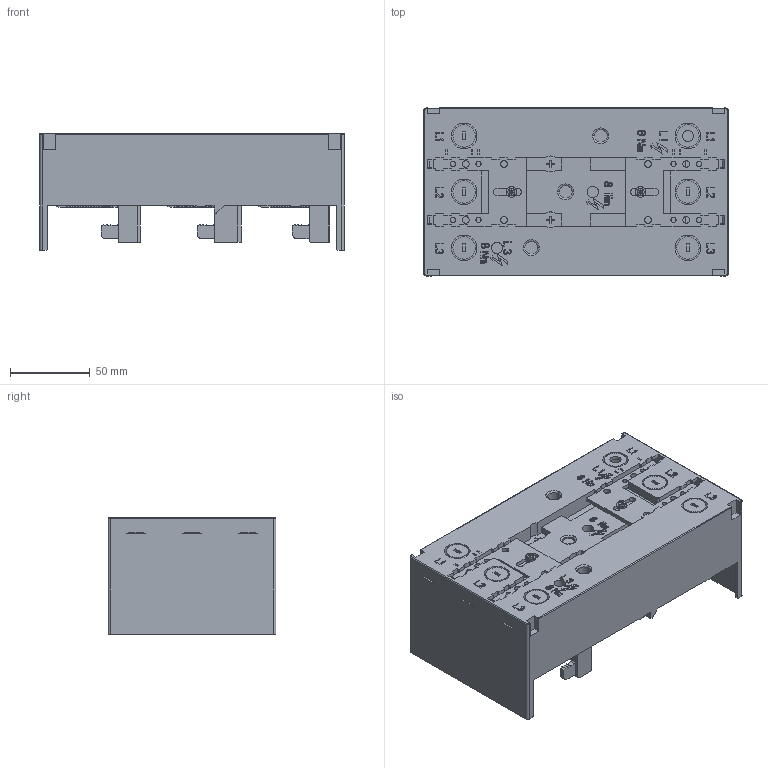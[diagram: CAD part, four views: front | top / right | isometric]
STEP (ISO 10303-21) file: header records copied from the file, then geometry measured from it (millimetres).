
FILE_DESCRIPTION (( 'STEP AP214' ), '1' );
FILE_NAME ('55220潠芞.ST', '2023-07-31T08:09:26', ( 'Windows User' ), ( 'P R C' ), 'SwSTEP 2.0', 'SolidWorks 2019', '' );
FILE_SCHEMA (( 'AUTOMOTIVE_DESIGN' ));
Length unit declared in the file: millimetre
Products named in the file (1): 55220潠芞赤_“a_
Bounding box: 190.5 x 105 x 73 mm (x, y, z)
Volume: 795630.9 mm3; surface area: 149855.8 mm2
Topology: 1 solids, 5 shells, 2324 faces, 6521 edges, 4280 vertices
Faces by surface type: plane 1896, cylinder 351, cone 30, bspline 29, torus 14, sphere 4
Entity records: 77734 total; most frequent: CARTESIAN_POINT 16559, ORIENTED_EDGE 13042, DIRECTION 11853, EDGE_CURVE 6521, VECTOR 5465, LINE 5465, VERTEX_POINT 4280, AXIS2_PLACEMENT_3D 3194
